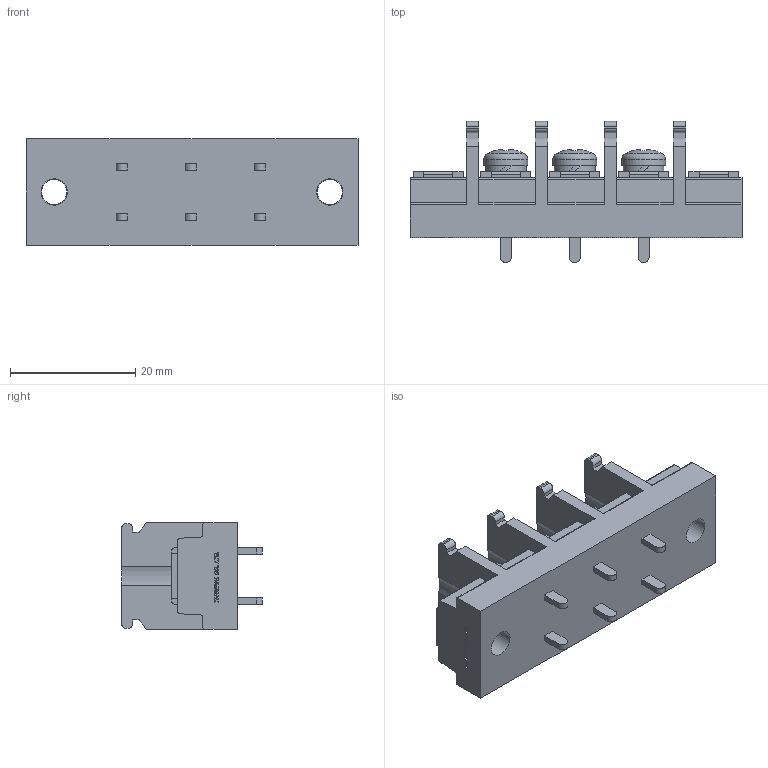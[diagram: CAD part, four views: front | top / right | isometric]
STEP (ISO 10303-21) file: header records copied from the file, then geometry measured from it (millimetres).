
FILE_DESCRIPTION(/* description */ ('Alibre Inc.'),/* implementation_level */ '2;1');
FILE_NAME(/* name */ 'export0',/* time_stamp */ '2015-10-19T19:47:46+09:00',/* author */ (''),/* organization */ (''),/* preprocessor_version */ 'ST-DEVELOPER v14',/* originating_system */ 'Alibre',/* authorisation */ '');
FILE_SCHEMA (('CONFIG_CONTROL_DESIGN'));
Length unit declared in the file: centimetre
Products named in the file (1): ID_1
Bounding box: 53 x 22.5 x 17 mm (x, y, z)
Volume: 9214.9 mm3; surface area: 5429.2 mm2
Topology: 1 solids, 1 shells, 684 faces, 1871 edges, 1245 vertices
Faces by surface type: plane 486, bspline 104, cylinder 73, cone 12, torus 6, sphere 3
Full cylindrical faces by diameter (mm): 4 x5, 4.2 x2, 6.5 x3, 7 x3
Entity records: 21008 total; most frequent: CARTESIAN_POINT 4772, ORIENTED_EDGE 3688, DIRECTION 2498, EDGE_CURVE 1844, VECTOR 1372, LINE 1372, VERTEX_POINT 1234, AXIS2_PLACEMENT_3D 798
